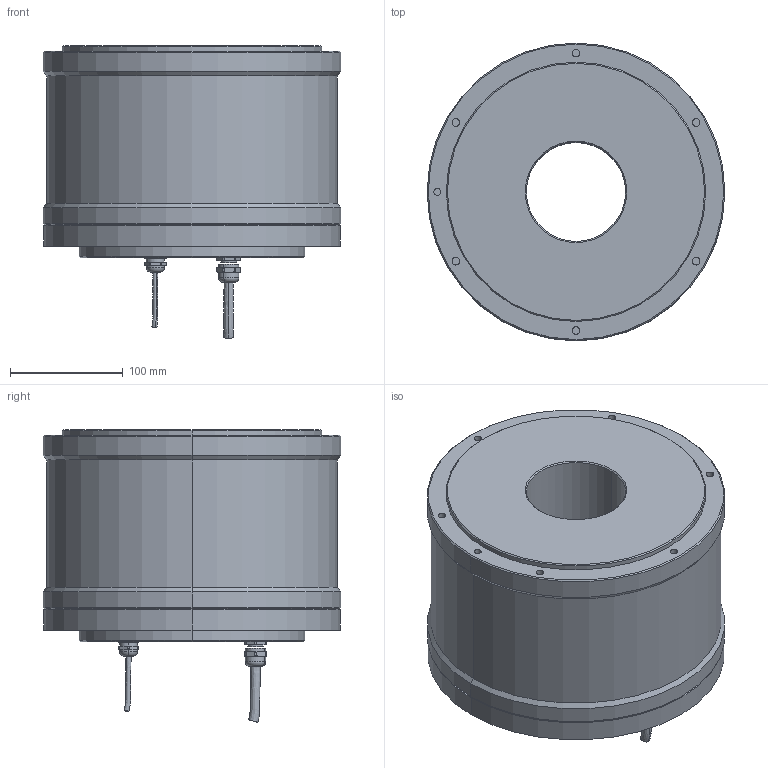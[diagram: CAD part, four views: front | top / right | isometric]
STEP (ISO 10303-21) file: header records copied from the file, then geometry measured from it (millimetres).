
FILE_DESCRIPTION (( 'STEP AP214' ), '1' );
FILE_NAME ('DMFE264-300RE.STEP', '2018-07-27T06:15:02', ( '微软用户' ), ( '微软中国' ), 'SwSTEP 2.0', 'SolidWorks 2014', '' );
FILE_SCHEMA (( 'AUTOMOTIVE_DESIGN' ));
Length unit declared in the file: millimetre
Products named in the file (1): DMFE264-300RE
Bounding box: 264 x 264 x 259.76 mm (x, y, z)
Surface area: 313223.6 mm2 (no closed solid volume)
Topology: 0 solids, 9 shells, 203 faces, 594 edges, 398 vertices
Faces by surface type: cylinder 89, plane 45, cone 35, torus 30, bspline 4
Entity records: 9965 total; most frequent: CARTESIAN_POINT 2378, DIRECTION 1173, ORIENTED_EDGE 998, EDGE_CURVE 594, AXIS2_PLACEMENT_3D 481, VERTEX_POINT 398, CIRCLE 281, EDGE_LOOP 234
